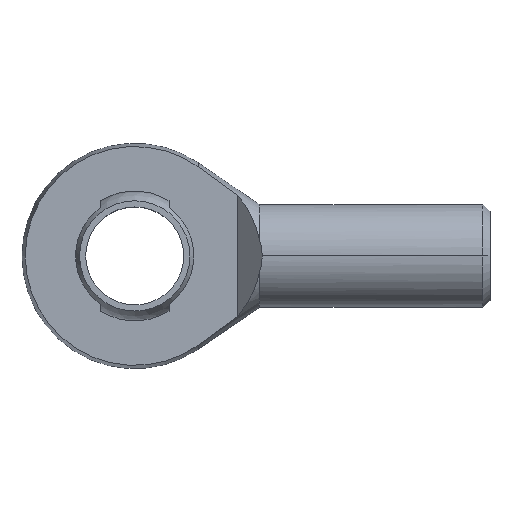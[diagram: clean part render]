
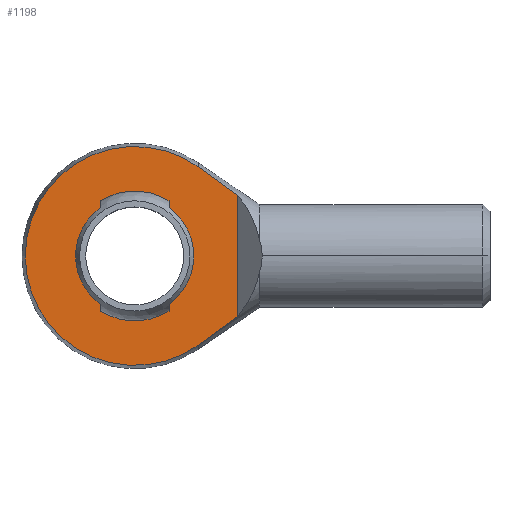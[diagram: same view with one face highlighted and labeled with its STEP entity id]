
A CAD part, top view. The second image highlights one B-rep face of the part: STEP entity #1198.
In plain terms, the highlighted planar face has unit normal (0, 0, 1).
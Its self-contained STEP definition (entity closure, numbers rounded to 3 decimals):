
#7 = ORIENTED_EDGE ( 'NONE', *, *, #55, .T. ) ;
#8 = ORIENTED_EDGE ( 'NONE', *, *, #1131, .T. ) ;
#38 = ORIENTED_EDGE ( 'NONE', *, *, #40, .T. ) ;
#40 = EDGE_CURVE ( 'NONE', #1106, #56, #94, .T. ) ;
#55 = EDGE_CURVE ( 'NONE', #56, #1113, #133, .T. ) ;
#56 = VERTEX_POINT ( 'NONE', #132 ) ;
#92 = VECTOR ( 'NONE', #145, 1000. ) ;
#93 = CARTESIAN_POINT ( 'NONE',  ( 42., -46., 11. ) ) ;
#94 = LINE ( 'NONE', #93, #92 ) ;
#126 = CARTESIAN_POINT ( 'NONE',  ( 25.888, 36.398, 11. ) ) ;
#127 = CARTESIAN_POINT ( 'NONE',  ( 28.591, 34.476, 11. ) ) ;
#128 = CARTESIAN_POINT ( 'NONE',  ( 31.288, 32.545, 11. ) ) ;
#129 = CARTESIAN_POINT ( 'NONE',  ( 36.662, 28.657, 11. ) ) ;
#130 = CARTESIAN_POINT ( 'NONE',  ( 39.34, 26.699, 11. ) ) ;
#131 = CARTESIAN_POINT ( 'NONE',  ( 42., 24.717, 11. ) ) ;
#132 = CARTESIAN_POINT ( 'NONE',  ( 42., 24.717, 11. ) ) ;
#133 = B_SPLINE_CURVE_WITH_KNOTS ( 'NONE', 3,
 ( #131, #130, #129, #128, #127, #126 ),
 .UNSPECIFIED., .F., .F.,
 ( 4, 2, 4 ),
 ( 0.345, 0.355, 0.364 ),
 .UNSPECIFIED. ) ;
#145 = DIRECTION ( 'NONE',  ( 0., 1., 0. ) ) ;
#170 = CARTESIAN_POINT ( 'NONE',  ( 42., -24.717, 11. ) ) ;
#194 = CARTESIAN_POINT ( 'NONE',  ( 25.888, 36.398, 11. ) ) ;
#208 = CARTESIAN_POINT ( 'NONE',  ( 25.888, -36.398, 11. ) ) ;
#247 = DIRECTION ( 'NONE',  ( -1., 0., 0. ) ) ;
#248 = DIRECTION ( 'NONE',  ( 0., 0., 1. ) ) ;
#249 = CARTESIAN_POINT ( 'NONE',  ( 0., 0., 11. ) ) ;
#250 = AXIS2_PLACEMENT_3D ( 'NONE', #249, #248, #247 ) ;
#251 = CIRCLE ( 'NONE', #250, 44.665 ) ;
#284 = CARTESIAN_POINT ( 'NONE',  ( -14., -19.628, 11. ) ) ;
#290 = CARTESIAN_POINT ( 'NONE',  ( 42., -24.717, 11. ) ) ;
#291 = CARTESIAN_POINT ( 'NONE',  ( 39.34, -26.699, 11. ) ) ;
#292 = CARTESIAN_POINT ( 'NONE',  ( 36.663, -28.656, 11. ) ) ;
#293 = CARTESIAN_POINT ( 'NONE',  ( 31.288, -32.545, 11. ) ) ;
#294 = CARTESIAN_POINT ( 'NONE',  ( 28.591, -34.476, 11. ) ) ;
#295 = CARTESIAN_POINT ( 'NONE',  ( 25.888, -36.398, 11. ) ) ;
#297 = B_SPLINE_CURVE_WITH_KNOTS ( 'NONE', 3,
 ( #295, #294, #293, #292, #291, #290 ),
 .UNSPECIFIED., .F., .F.,
 ( 4, 2, 4 ),
 ( 0.255, 0.265, 0.275 ),
 .UNSPECIFIED. ) ;
#304 = DIRECTION ( 'NONE',  ( -1., 0., 0. ) ) ;
#305 = DIRECTION ( 'NONE',  ( 0., 0., -1. ) ) ;
#306 = CARTESIAN_POINT ( 'NONE',  ( 0., 0., 11. ) ) ;
#307 = AXIS2_PLACEMENT_3D ( 'NONE', #306, #305, #304 ) ;
#308 = CIRCLE ( 'NONE', #307, 24.109 ) ;
#332 = FACE_OUTER_BOUND ( 'NONE', #1213, .T. ) ;
#333 = FACE_BOUND ( 'NONE', #1202, .T. ) ;
#362 = DIRECTION ( 'NONE',  ( 1., 0., 0. ) ) ;
#363 = DIRECTION ( 'NONE',  ( 0., 0., 1. ) ) ;
#364 = CARTESIAN_POINT ( 'NONE',  ( 0., 0., 11. ) ) ;
#365 = AXIS2_PLACEMENT_3D ( 'NONE', #364, #363, #362 ) ;
#366 = CIRCLE ( 'NONE', #365, 26.5 ) ;
#367 = CARTESIAN_POINT ( 'NONE',  ( -14., -22.5, 11. ) ) ;
#368 = DIRECTION ( 'NONE',  ( 0., -1., 0. ) ) ;
#369 = VECTOR ( 'NONE', #368, 1000. ) ;
#370 = CARTESIAN_POINT ( 'NONE',  ( -14., 22.5, 11. ) ) ;
#371 = DIRECTION ( 'NONE',  ( -1., 0., 0. ) ) ;
#372 = DIRECTION ( 'NONE',  ( 0., 0., -1. ) ) ;
#373 = CARTESIAN_POINT ( 'NONE',  ( -46., -46., 11. ) ) ;
#374 = LINE ( 'NONE', #370, #369 ) ;
#375 = AXIS2_PLACEMENT_3D ( 'NONE', #373, #372, #371 ) ;
#376 = PLANE ( 'NONE',  #375 ) ;
#381 = DIRECTION ( 'NONE',  ( 1., 0., 0. ) ) ;
#382 = DIRECTION ( 'NONE',  ( 0., 0., 1. ) ) ;
#383 = CARTESIAN_POINT ( 'NONE',  ( 0., 0., 11. ) ) ;
#384 = AXIS2_PLACEMENT_3D ( 'NONE', #383, #382, #381 ) ;
#388 = CIRCLE ( 'NONE', #384, 26.5 ) ;
#606 = CARTESIAN_POINT ( 'NONE',  ( -14., 19.628, 11. ) ) ;
#619 = DIRECTION ( 'NONE',  ( -1., 0., 0. ) ) ;
#620 = DIRECTION ( 'NONE',  ( 0., 0., -1. ) ) ;
#621 = CARTESIAN_POINT ( 'NONE',  ( 0., 0., 11. ) ) ;
#622 = AXIS2_PLACEMENT_3D ( 'NONE', #621, #620, #619 ) ;
#623 = CIRCLE ( 'NONE', #622, 24.109 ) ;
#652 = DIRECTION ( 'NONE',  ( 0., 1., 0. ) ) ;
#653 = VECTOR ( 'NONE', #652, 1000. ) ;
#654 = CARTESIAN_POINT ( 'NONE',  ( 14., 22.5, 11. ) ) ;
#655 = LINE ( 'NONE', #654, #653 ) ;
#689 = DIRECTION ( 'NONE',  ( 0., 1., 0. ) ) ;
#690 = VECTOR ( 'NONE', #689, 1000. ) ;
#691 = CARTESIAN_POINT ( 'NONE',  ( 14., 22.5, 11. ) ) ;
#692 = LINE ( 'NONE', #691, #690 ) ;
#702 = CARTESIAN_POINT ( 'NONE',  ( 14., -22.5, 11. ) ) ;
#714 = CARTESIAN_POINT ( 'NONE',  ( 14., -19.628, 11. ) ) ;
#740 = CARTESIAN_POINT ( 'NONE',  ( 14., 22.5, 11. ) ) ;
#745 = CARTESIAN_POINT ( 'NONE',  ( 14., 19.628, 11. ) ) ;
#766 = DIRECTION ( 'NONE',  ( 0., -1., 0. ) ) ;
#767 = VECTOR ( 'NONE', #766, 1000. ) ;
#768 = CARTESIAN_POINT ( 'NONE',  ( -14., 22.5, 11. ) ) ;
#769 = LINE ( 'NONE', #768, #767 ) ;
#770 = CARTESIAN_POINT ( 'NONE',  ( -14., 22.5, 11. ) ) ;
#1106 = VERTEX_POINT ( 'NONE', #170 ) ;
#1113 = VERTEX_POINT ( 'NONE', #194 ) ;
#1128 = VERTEX_POINT ( 'NONE', #208 ) ;
#1131 = EDGE_CURVE ( 'NONE', #1113, #1128, #251, .T. ) ;
#1147 = VERTEX_POINT ( 'NONE', #284 ) ;
#1163 = ORIENTED_EDGE ( 'NONE', *, *, #1168, .T. ) ;
#1168 = EDGE_CURVE ( 'NONE', #1402, #1382, #308, .T. ) ;
#1174 = EDGE_CURVE ( 'NONE', #1128, #1106, #297, .T. ) ;
#1198 = ADVANCED_FACE ( 'NONE', ( #333, #332 ), #376, .F. ) ;
#1201 = ORIENTED_EDGE ( 'NONE', *, *, #1399, .F. ) ;
#1202 = EDGE_LOOP ( 'NONE', ( #1201, #1163, #1297, #1298, #1207, #1209, #1212, #1211 ) ) ;
#1206 = EDGE_CURVE ( 'NONE', #1147, #1208, #374, .T. ) ;
#1207 = ORIENTED_EDGE ( 'NONE', *, *, #1206, .F. ) ;
#1208 = VERTEX_POINT ( 'NONE', #367 ) ;
#1209 = ORIENTED_EDGE ( 'NONE', *, *, #1352, .T. ) ;
#1210 = EDGE_CURVE ( 'NONE', #1404, #1430, #366, .T. ) ;
#1211 = ORIENTED_EDGE ( 'NONE', *, *, #1210, .F. ) ;
#1212 = ORIENTED_EDGE ( 'NONE', *, *, #1431, .F. ) ;
#1213 = EDGE_LOOP ( 'NONE', ( #1215, #38, #7, #8 ) ) ;
#1215 = ORIENTED_EDGE ( 'NONE', *, *, #1174, .T. ) ;
#1231 = EDGE_CURVE ( 'NONE', #1208, #1396, #388, .T. ) ;
#1297 = ORIENTED_EDGE ( 'NONE', *, *, #1378, .F. ) ;
#1298 = ORIENTED_EDGE ( 'NONE', *, *, #1231, .F. ) ;
#1352 = EDGE_CURVE ( 'NONE', #1147, #1357, #623, .T. ) ;
#1357 = VERTEX_POINT ( 'NONE', #606 ) ;
#1378 = EDGE_CURVE ( 'NONE', #1396, #1382, #655, .T. ) ;
#1382 = VERTEX_POINT ( 'NONE', #714 ) ;
#1396 = VERTEX_POINT ( 'NONE', #702 ) ;
#1399 = EDGE_CURVE ( 'NONE', #1402, #1404, #692, .T. ) ;
#1402 = VERTEX_POINT ( 'NONE', #745 ) ;
#1404 = VERTEX_POINT ( 'NONE', #740 ) ;
#1430 = VERTEX_POINT ( 'NONE', #770 ) ;
#1431 = EDGE_CURVE ( 'NONE', #1430, #1357, #769, .T. ) ;
